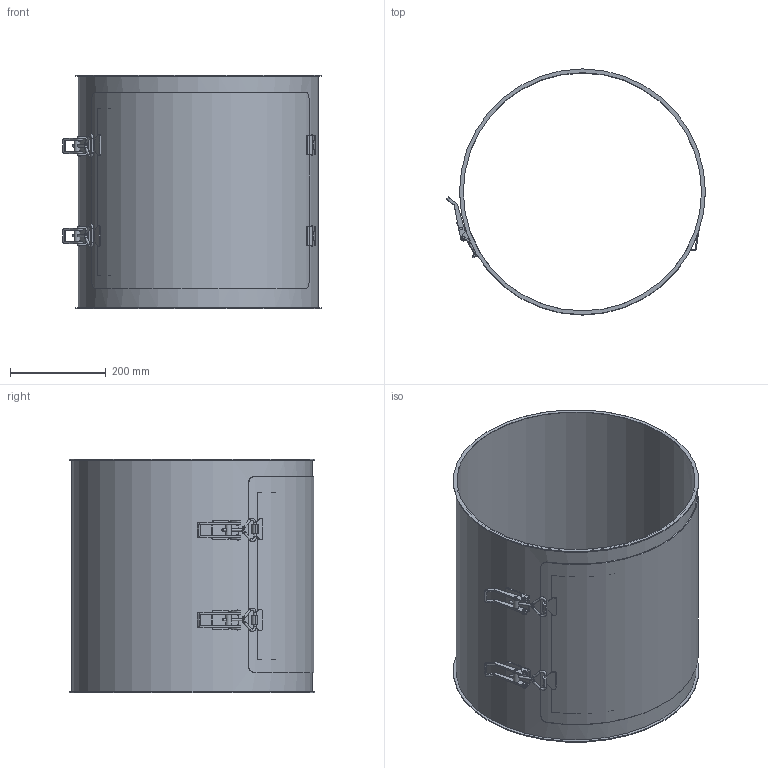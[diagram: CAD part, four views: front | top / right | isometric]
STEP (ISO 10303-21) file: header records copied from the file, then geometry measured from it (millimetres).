
FILE_DESCRIPTION((''),'2;1');
FILE_NAME('U:\Wolfgang\Marcel-3D\fertig\Kapitel 4\5021142.stp','2011-04-21T08:23:59',('TK1'),(''),'Autodesk Inventor 2010','Autodesk Inventor 2010','');
FILE_SCHEMA(('AUTOMOTIVE_DESIGN { 1 0 10303 214 1 1 1 1 }'));
Length unit declared in the file: millimetre
Products named in the file (14): 5021142; 5021142-Rohr; 5021142-verschluss; Verschluss ab 35-1; Verschluss ab 35-2; Verschluss ab 35-3; Verschluss ab 35-4; Verschluss ab 35-5; Gelenk50; Deckel50; 5021142 Halterung2; 5021142-Deckel; verschluss 50; 5021142 Halterung3
Assembly tree (19 placements, depth 3):
  5021142
    5021142-Rohr
    5021142-verschluss  x2
      Verschluss ab 35-1
      Verschluss ab 35-2
      Verschluss ab 35-3
      Verschluss ab 35-4
      Verschluss ab 35-5
    Gelenk50  x2
    Deckel50
      5021142 Halterung2  x2
      5021142-Deckel
      verschluss 50  x2
    5021142 Halterung3  x2
Bounding box: 540.89 x 514 x 488 mm (x, y, z)
Volume: 1749547.4 mm3; surface area: 1750716.3 mm2
Topology: 22 solids, 22 shells, 334 faces, 815 edges, 535 vertices
Faces by surface type: plane 157, cylinder 138, bspline 19, sphere 12, torus 8
Full cylindrical faces by diameter (mm): 4.917 x2, 5 x32, 6 x8, 12 x2, 498 x1, 502 x1, 514 x2
Entity records: 5901 total; most frequent: CARTESIAN_POINT 1320, DIRECTION 934, ORIENTED_EDGE 796, EDGE_CURVE 398, AXIS2_PLACEMENT_3D 363, VERTEX_POINT 279, EDGE_LOOP 241, VECTOR 208
